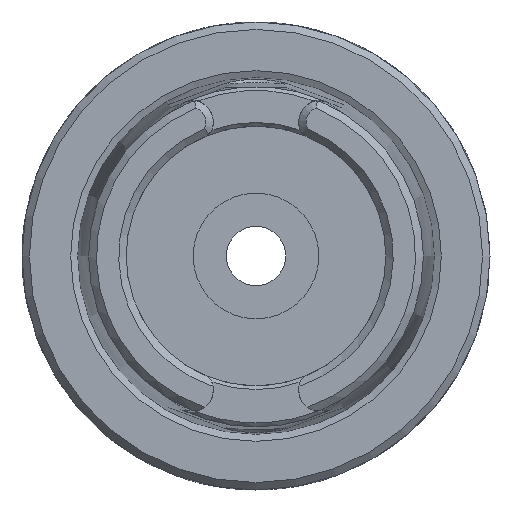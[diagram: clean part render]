
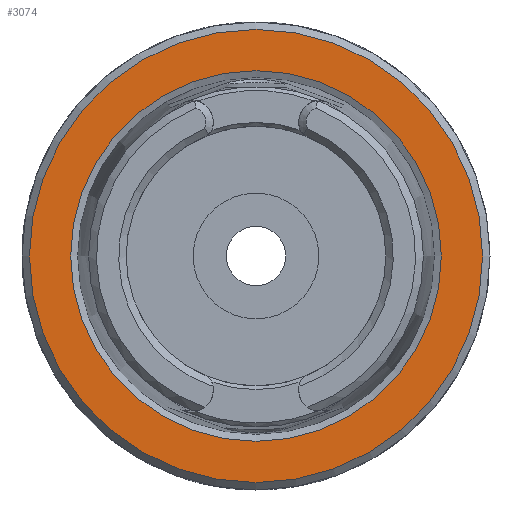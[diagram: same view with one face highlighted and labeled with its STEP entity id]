
A CAD part, left-side view. The second image highlights one B-rep face of the part: STEP entity #3074.
In plain terms, the highlighted planar face has unit normal (-1, 0, 0).
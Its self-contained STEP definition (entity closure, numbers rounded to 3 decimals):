
#142=PLANE('',#3378);
#299=FACE_BOUND('',#1061,.T.);
#884=FACE_OUTER_BOUND('',#1060,.T.);
#1060=EDGE_LOOP('',(#2690));
#1061=EDGE_LOOP('',(#2691));
#1208=CIRCLE('',#3377,30.5);
#1209=CIRCLE('',#3379,24.95);
#1478=VERTEX_POINT('',#6707);
#1479=VERTEX_POINT('',#6711);
#1898=EDGE_CURVE('',#1478,#1478,#1208,.T.);
#1899=EDGE_CURVE('',#1479,#1479,#1209,.T.);
#2690=ORIENTED_EDGE('',*,*,#1898,.F.);
#2691=ORIENTED_EDGE('',*,*,#1899,.T.);
#3074=ADVANCED_FACE('',(#884,#299),#142,.T.);
#3377=AXIS2_PLACEMENT_3D('',#6709,#3917,#3918);
#3378=AXIS2_PLACEMENT_3D('',#6710,#3919,#3920);
#3379=AXIS2_PLACEMENT_3D('',#6712,#3921,#3922);
#3917=DIRECTION('center_axis',(1.,0.,0.));
#3918=DIRECTION('ref_axis',(0.,-1.,0.));
#3919=DIRECTION('center_axis',(-1.,0.,0.));
#3920=DIRECTION('ref_axis',(0.,0.,1.));
#3921=DIRECTION('center_axis',(1.,0.,0.));
#3922=DIRECTION('ref_axis',(0.,0.,-1.));
#6707=CARTESIAN_POINT('',(-19.,30.5,0.));
#6709=CARTESIAN_POINT('Origin',(-19.,0.,0.));
#6710=CARTESIAN_POINT('Origin',(-19.,31.5,0.));
#6711=CARTESIAN_POINT('',(-19.,-24.95,0.));
#6712=CARTESIAN_POINT('Origin',(-19.,0.,0.));
